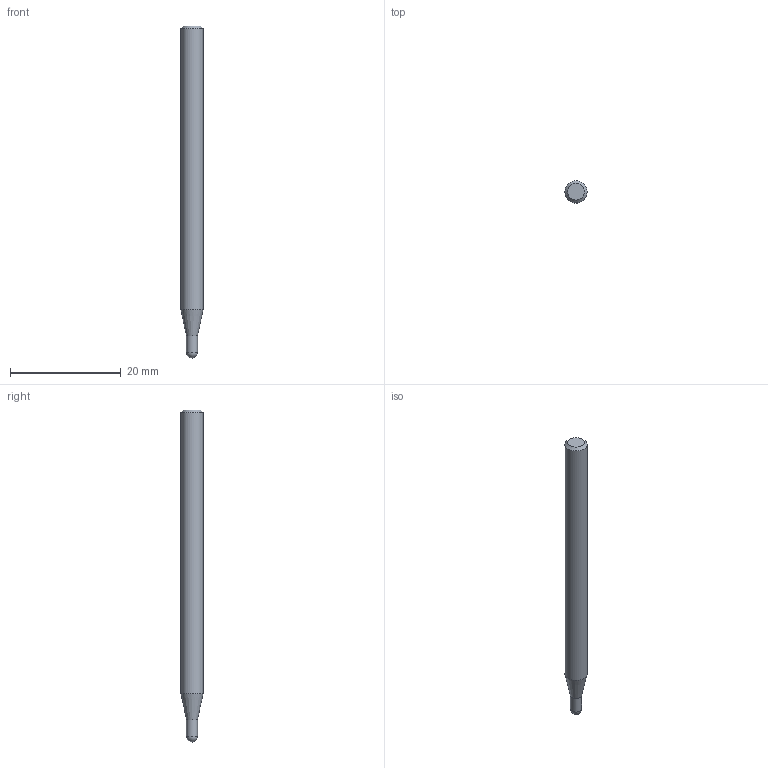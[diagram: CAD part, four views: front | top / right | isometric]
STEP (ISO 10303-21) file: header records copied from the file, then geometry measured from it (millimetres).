
FILE_DESCRIPTION((''),'2;1');
FILE_NAME('C:\Users\nsx150\AppData\Local\Temp\Mastercam 2021\EUJSUNXURU\TEMP.step','2021-04-22T10:22:49',(''),(''),'STEP Write','Mastercam 2021 ... CNC Software, Inc.','');
FILE_SCHEMA(('AUTOMOTIVE_DESIGN'));
Length unit declared in the file: millimetre
Products named in the file (1): None
Bounding box: 4 x 4 x 60 mm (x, y, z)
Volume: 689.2 mm3; surface area: 729.9 mm2
Topology: 2 solids, 2 shells, 8 faces, 12 edges, 7 vertices
Faces by surface type: plane 3, cylinder 2, cone 2, sphere 1
Full cylindrical faces by diameter (mm): 2 x1, 4 x1
Entity records: 190 total; most frequent: DIRECTION 32, CARTESIAN_POINT 22, AXIS2_PLACEMENT_3D 16, ORIENTED_EDGE 12, EDGE_LOOP 12, STYLED_ITEM 11, ADVANCED_FACE 8, VERTEX_POINT 6
